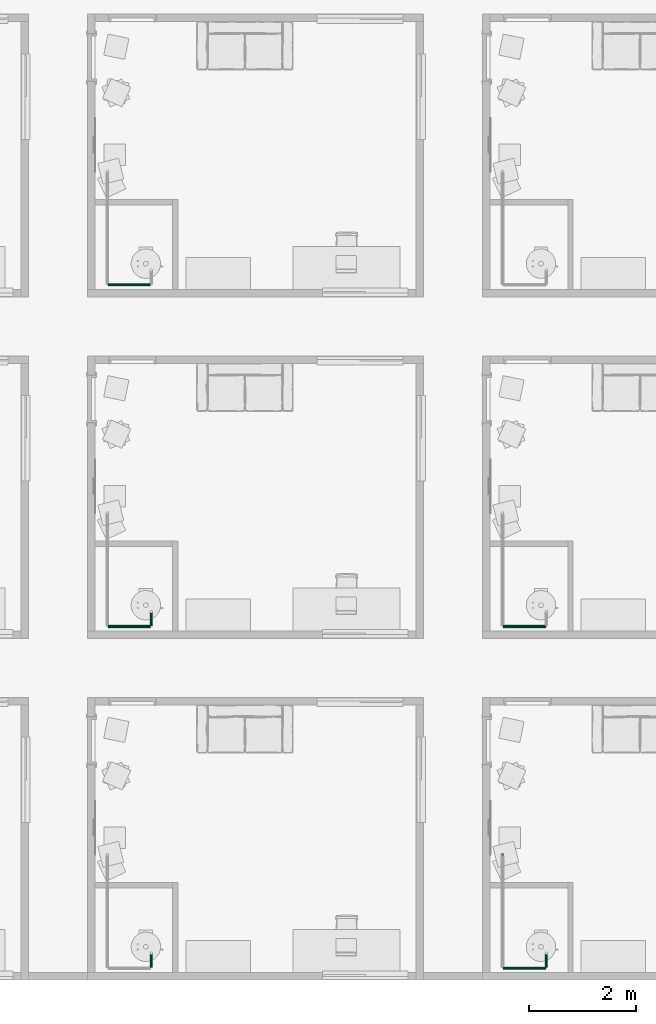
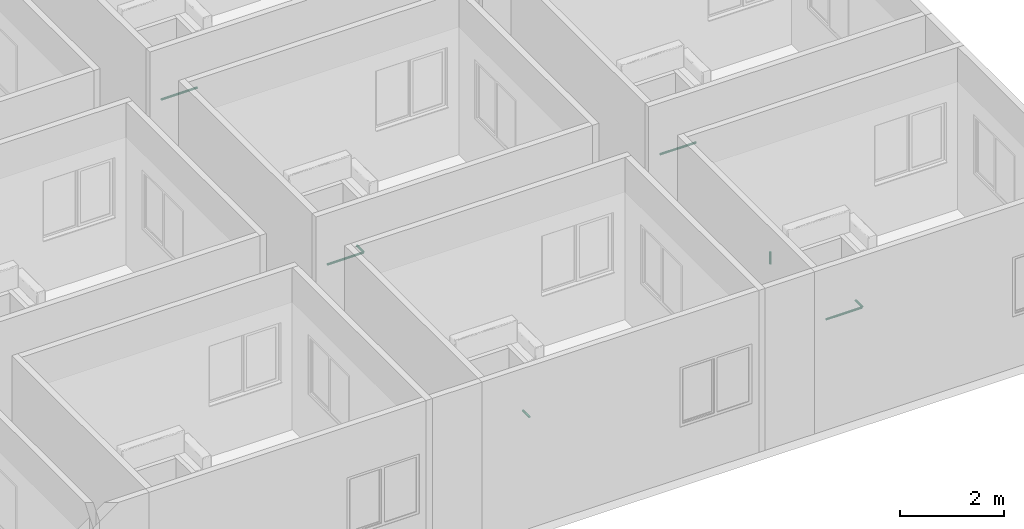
# One storey, part 52 of 72: 8 pipe segments.
"""IFC4 building model written with IfcOpenShell, lengths in centimetres."""

from ifc_helpers import new_model, entity, si_unit, converted_unit, derived_unit, direction, frame, origin, place, context, subcontext, project, spatial, arc, indexed_curve, outline, extrude, type_object, element, save


model = new_model("IFC4")

# Units and contexts
model_context = context("Model", 3, precision=0.001, world=origin(), true_north=direction((6.123233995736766e-17, 1.0)))
body_context = subcontext(model_context, "Body", "Model", "MODEL_VIEW")
ifc_project = project(units=[si_unit("LENGTHUNIT", "METRE", prefix="CENTI"), si_unit("AREAUNIT", "SQUARE_METRE"), si_unit("VOLUMEUNIT", "CUBIC_METRE"), derived_unit("THERMALTRANSMITTANCEUNIT", [(si_unit("MASSUNIT", "GRAM", prefix="KILO"), 1), (si_unit("THERMODYNAMICTEMPERATUREUNIT", "KELVIN"), -1), (si_unit("TIMEUNIT", "SECOND"), -3)]), converted_unit("PLANEANGLEUNIT", "DEGREE", entity("IfcPlaneAngleMeasure", 0.017453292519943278), si_unit("PLANEANGLEUNIT", "RADIAN"), dimensions=[0, 0, 0, 0, 0, 0, 0]), derived_unit("MASSDENSITYUNIT", [(si_unit("MASSUNIT", "GRAM", prefix="KILO"), 1), (si_unit("LENGTHUNIT", "METRE"), -3)]), derived_unit("VAPORPERMEABILITYUNIT", [(si_unit("LENGTHUNIT", "METRE"), -1), (si_unit("TIMEUNIT", "SECOND"), 1)]), derived_unit("USERDEFINED", [(si_unit("MASSUNIT", "GRAM", prefix="KILO"), 1), (si_unit("TIMEUNIT", "SECOND"), -3), (si_unit("LENGTHUNIT", "METRE"), 3), (si_unit("ELECTRICCURRENTUNIT", "AMPERE"), -2)]), derived_unit("SPECIFICHEATCAPACITYUNIT", [(si_unit("THERMODYNAMICTEMPERATUREUNIT", "KELVIN"), -1), (si_unit("LENGTHUNIT", "METRE"), 2), (si_unit("TIMEUNIT", "SECOND"), -2)]), derived_unit("THERMALCONDUCTANCEUNIT", [(si_unit("MASSUNIT", "GRAM", prefix="KILO"), 1), (si_unit("THERMODYNAMICTEMPERATUREUNIT", "KELVIN"), -1), (si_unit("TIMEUNIT", "SECOND"), -3), (si_unit("LENGTHUNIT", "METRE"), 1)]), si_unit("PRESSUREUNIT", "PASCAL"), derived_unit("MODULUSOFELASTICITYUNIT", [(si_unit("MASSUNIT", "GRAM", prefix="KILO"), 1), (si_unit("LENGTHUNIT", "METRE"), -1), (si_unit("TIMEUNIT", "SECOND"), -2)]), derived_unit("THERMALEXPANSIONCOEFFICIENTUNIT", [(si_unit("THERMODYNAMICTEMPERATUREUNIT", "KELVIN"), -1)])], contexts=[model_context])

# Site, building, storey
site_placement = place(None, origin())
site = spatial("IfcSite", under=ifc_project, at=site_placement, Name="Default", CompositionType="ELEMENT")
building_placement = place(site_placement, origin())
building = spatial("IfcBuilding", under=site, at=building_placement, Name="IDS Escape Game Building", CompositionType="ELEMENT")
storey_placement = place(building_placement, frame((0.0, 0.0, 800.0)))
storey = spatial("IfcBuildingStorey", under=building, at=storey_placement, Name="02_Second Floor", CompositionType="ELEMENT", Elevation=800.0)

# Pipe segments
pipe_segment_type = type_object("IfcPipeSegmentType", Name="Pipe Types:Piping Aluminum", PredefinedType="NOTDEFINED")
pipe_segment_1_placement = place(storey_placement, origin())
element("IfcPipeSegment", 1, at=pipe_segment_1_placement, inside=storey, type_object=pipe_segment_type, Name="Pipe Types:Piping Aluminum", ObjectType="Pipe Types:Piping Aluminum", PredefinedType="NOTDEFINED", context=body_context, shape_type="SweptSolid", body=[
    extrude(outline(indexed_curve([(2.4129999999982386, 0.0), (1.706248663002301, 1.7062486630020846), (1.2994405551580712e-12, 2.412999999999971), (-1.7062486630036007, 1.7062486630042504), (-2.413000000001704, 0.0), (-1.7062486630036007, -1.7062486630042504), (1.2994405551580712e-12, -2.412999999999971), (1.706248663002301, -1.7062486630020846)], segments=[arc(1, 2, 3), arc(3, 4, 5), arc(5, 6, 7), arc(7, 8, 1)], self_intersect=False)), frame((3802.150000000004, 22.36482792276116, 242.0), z_axis=(0.0, 1.0, 0.0), x_axis=(-1.0, 0.0, 0.0)), (0.0, 0.0, 1.0), 25.435172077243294),
])
pipe_segment_2_placement = place(storey_placement, origin())
element("IfcPipeSegment", 2, at=pipe_segment_2_placement, inside=storey, type_object=pipe_segment_type, Name="Pipe Types:Piping Aluminum", ObjectType="Pipe Types:Piping Aluminum", PredefinedType="NOTDEFINED", context=body_context, shape_type="SweptSolid", body=[
    extrude(outline(indexed_curve([(2.412999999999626, -2.165734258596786e-13), (1.7062486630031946, 1.7062486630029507), (3.790034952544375e-13, 2.4130000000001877), (-1.7062486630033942, 1.706248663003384), (-2.4130000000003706, -2.165734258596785e-13), (-1.70624866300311, -1.706248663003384), (3.654676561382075e-13, -2.4129999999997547), (1.7062486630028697, -1.7062486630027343)], segments=[arc(1, 2, 3), arc(3, 4, 5), arc(5, 6, 7), arc(7, 8, 1)], self_intersect=False)), frame((4459.146716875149, 21.264827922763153, 242.0), z_axis=(1.0, 0.0, 0.0), x_axis=(0.0, 1.0, 0.0)), (0.0, 0.0, 1.0), 79.90328312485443),
])
pipe_segment_3_placement = place(storey_placement, origin())
element("IfcPipeSegment", 3, at=pipe_segment_3_placement, inside=storey, type_object=pipe_segment_type, Name="Pipe Types:Piping Aluminum", ObjectType="Pipe Types:Piping Aluminum", PredefinedType="NOTDEFINED", context=body_context, shape_type="SweptSolid", body=[
    extrude(outline(indexed_curve([(2.412999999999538, 0.0), (1.7062486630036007, 1.706248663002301), (1.7325874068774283e-12, 2.412999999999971), (-1.7062486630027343, 1.7062486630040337), (-2.413000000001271, 0.0), (-1.7062486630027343, -1.7062486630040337), (1.7325874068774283e-12, -2.412999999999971), (1.7062486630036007, -1.706248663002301)], segments=[arc(1, 2, 3), arc(3, 4, 5), arc(5, 6, 7), arc(7, 8, 1)], self_intersect=False)), frame((4540.150000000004, 22.36482792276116, 242.0), z_axis=(0.0, 1.0, 0.0), x_axis=(-1.0, 0.0, 0.0)), (0.0, 0.0, 1.0), 25.43517207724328),
])
pipe_segment_4_placement = place(storey_placement, origin())
element("IfcPipeSegment", 4, at=pipe_segment_4_placement, inside=storey, type_object=pipe_segment_type, Name="Pipe Types:Piping Aluminum", ObjectType="Pipe Types:Piping Aluminum", PredefinedType="NOTDEFINED", context=body_context, shape_type="SweptSolid", body=[
    extrude(outline(indexed_curve([(2.4130000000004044, -2.7071678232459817e-14), (1.7062486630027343, 1.7062486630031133), (0.0, 2.412999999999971), (-1.7062486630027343, 1.7062486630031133), (-2.4130000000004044, 0.0), (-1.7062486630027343, -1.7062486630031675), (0.0, -2.413000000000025), (1.7062486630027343, -1.7062486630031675)], segments=[arc(1, 2, 3), arc(3, 4, 5), arc(5, 6, 7), arc(7, 8, 1)], self_intersect=False)), frame((4458.046716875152, 233.26482792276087, 244.09999999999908), z_axis=(0.0, 0.0, 1.0), x_axis=(-1.0, 0.0, 0.0)), (0.0, 0.0, 1.0), 27.90000000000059),
])
pipe_segment_5_placement = place(storey_placement, origin())
element("IfcPipeSegment", 5, at=pipe_segment_5_placement, inside=storey, type_object=pipe_segment_type, Name="Pipe Types:Piping Aluminum", ObjectType="Pipe Types:Piping Aluminum", PredefinedType="NOTDEFINED", context=body_context, shape_type="SweptSolid", body=[
    extrude(outline(indexed_curve([(2.4129999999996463, -2.165734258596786e-13), (1.7062486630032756, 1.7062486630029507), (4.331468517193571e-13, 2.4130000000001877), (-1.706248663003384, 1.706248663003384), (-2.413000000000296, -2.165734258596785e-13), (-1.706248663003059, -1.706248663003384), (4.3314685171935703e-13, -2.4129999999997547), (1.7062486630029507, -1.7062486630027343)], segments=[arc(1, 2, 3), arc(3, 4, 5), arc(5, 6, 7), arc(7, 8, 1)], self_intersect=False)), frame((3721.1467168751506, 659.2648279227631, 242.0), z_axis=(1.0, 0.0, 0.0), x_axis=(0.0, 1.0, 0.0)), (0.0, 0.0, 1.0), 79.90328312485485),
])
pipe_segment_6_placement = place(storey_placement, origin())
element("IfcPipeSegment", 6, at=pipe_segment_6_placement, inside=storey, type_object=pipe_segment_type, Name="Pipe Types:Piping Aluminum", ObjectType="Pipe Types:Piping Aluminum", PredefinedType="NOTDEFINED", context=body_context, shape_type="SweptSolid", body=[
    extrude(outline(indexed_curve([(2.4129999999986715, 0.0), (1.7062486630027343, 1.7062486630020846), (1.7325874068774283e-12, 2.412999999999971), (-1.7062486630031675, 1.7062486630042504), (-2.413000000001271, 0.0), (-1.7062486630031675, -1.7062486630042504), (1.7325874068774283e-12, -2.412999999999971), (1.7062486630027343, -1.7062486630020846)], segments=[arc(1, 2, 3), arc(3, 4, 5), arc(5, 6, 7), arc(7, 8, 1)], self_intersect=False)), frame((3802.150000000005, 660.364827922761, 242.0), z_axis=(0.0, 1.0, 0.0), x_axis=(-1.0, 0.0, 0.0)), (0.0, 0.0, 1.0), 25.43517207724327),
])
pipe_segment_7_placement = place(storey_placement, origin())
element("IfcPipeSegment", 7, at=pipe_segment_7_placement, inside=storey, type_object=pipe_segment_type, Name="Pipe Types:Piping Aluminum", ObjectType="Pipe Types:Piping Aluminum", PredefinedType="NOTDEFINED", context=body_context, shape_type="SweptSolid", body=[
    extrude(outline(indexed_curve([(2.4129999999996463, -2.165734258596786e-13), (1.7062486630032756, 1.7062486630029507), (4.331468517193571e-13, 2.4130000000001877), (-1.706248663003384, 1.706248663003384), (-2.413000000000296, -2.165734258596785e-13), (-1.706248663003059, -1.706248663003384), (4.3314685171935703e-13, -2.4129999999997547), (1.7062486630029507, -1.7062486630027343)], segments=[arc(1, 2, 3), arc(3, 4, 5), arc(5, 6, 7), arc(7, 8, 1)], self_intersect=False)), frame((4459.14671687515, 659.2648279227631, 242.0), z_axis=(1.0, 0.0, 0.0), x_axis=(0.0, 1.0, 0.0)), (0.0, 0.0, 1.0), 79.90328312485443),
])
pipe_segment_8_placement = place(storey_placement, origin())
element("IfcPipeSegment", 8, at=pipe_segment_8_placement, inside=storey, type_object=pipe_segment_type, Name="Pipe Types:Piping Aluminum", ObjectType="Pipe Types:Piping Aluminum", PredefinedType="NOTDEFINED", context=body_context, shape_type="SweptSolid", body=[
    extrude(outline(indexed_curve([(2.412999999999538, -2.165734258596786e-13), (1.7062486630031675, 1.7062486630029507), (4.331468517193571e-13, 2.4130000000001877), (-1.706248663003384, 1.7062486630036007), (-2.4130000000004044, -2.165734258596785e-13), (-1.7062486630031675, -1.706248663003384), (4.3314685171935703e-13, -2.4129999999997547), (1.7062486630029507, -1.7062486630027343)], segments=[arc(1, 2, 3), arc(3, 4, 5), arc(5, 6, 7), arc(7, 8, 1)], self_intersect=False)), frame((3721.1467168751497, 1297.2648279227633, 242.0), z_axis=(1.0, 0.0, 0.0), x_axis=(0.0, 1.0, 0.0)), (0.0, 0.0, 1.0), 79.90328312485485),
])

save(model, "model.ifc")
